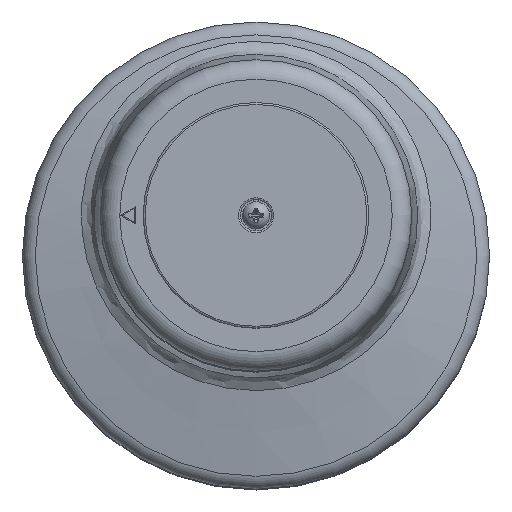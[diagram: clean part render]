
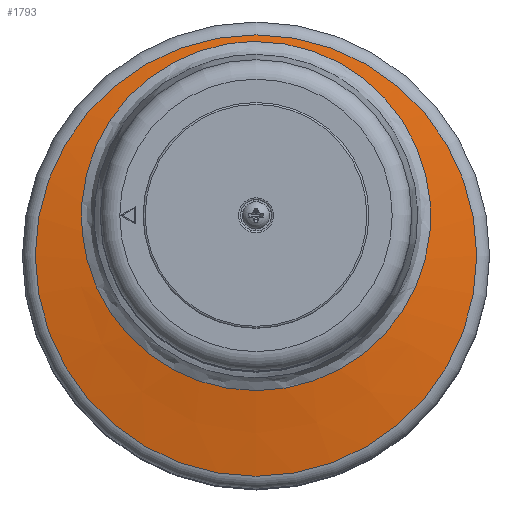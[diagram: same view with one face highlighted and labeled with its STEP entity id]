
A CAD part, top view. The second image highlights one B-rep face of the part: STEP entity #1793.
In plain terms, the highlighted conical face has half-angle 80 degrees and reference radius 45.694 mm.
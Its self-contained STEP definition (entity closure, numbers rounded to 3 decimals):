
#1793=ADVANCED_FACE('',(#5061,#5063),#5065,.T.);
#5061=FACE_OUTER_BOUND('',#5062,.T.);
#5062=EDGE_LOOP('',(#11467));
#5063=FACE_OUTER_BOUND('',#5064,.T.);
#5064=EDGE_LOOP('',(#11468));
#5065=CONICAL_SURFACE('',#5066,45.694,1.396);
#5066=AXIS2_PLACEMENT_3D('',#5067,#5068,#5069);
#5067=CARTESIAN_POINT('',(0.,17.522,0.));
#5068=DIRECTION('',(0.,-1.,0.));
#5069=DIRECTION('',(-1.,0.,0.));
#11467=ORIENTED_EDGE('',*,*,#13402,.T.);
#11468=ORIENTED_EDGE('',*,*,#13403,.F.);
#13402=EDGE_CURVE('',#14207,#14207,#14208,.T.);
#13403=EDGE_CURVE('',#14209,#14209,#14210,.T.);
#14207=VERTEX_POINT('',#17070);
#14208=B_SPLINE_CURVE_WITH_KNOTS('',3,
(#17071,#17072,#17073,#17074,#17075,#17076,#17077,#17078,#17079,#17080,#17081,#17082,
#17083,#17084,#17085,#17086,#17087,#17088,#17089,#17090,#17091,#17092,#17093,#17094,
#17095,#17096,#17097,#17098,#17099,#17100,#17101,#17102,#17103,#17104,#17105,#17106,
#17107,#17108,#17109,#17110,#17111,#17112,#17113,#17114,#17115,#17116,#17117,#17118,
#17119,#17120,#17121),
.UNSPECIFIED.,.T.,.F.,
(4,1,1,1,1,1,1,1,1,1,1,1,1,1,1,1,1,1,1,1,1,1,1,1,1,1,1,1,1,1,1,1,1,1,1,1,1,1,1,1,
1,1,1,1,1,1,1,1,4),
(0.,0.02,0.041,0.062,0.083,
0.105,0.126,0.147,0.168,0.189,
0.21,0.231,0.252,0.273,0.295,
0.316,0.337,0.358,0.379,0.401,
0.422,0.443,0.464,0.485,0.507,
0.528,0.549,0.57,0.591,0.613,
0.634,0.655,0.676,0.697,0.718,
0.74,0.761,0.782,0.803,0.824,
0.846,0.867,0.888,0.909,0.93,
0.951,0.972,0.988,1.),
.UNSPECIFIED.);
#14209=VERTEX_POINT('',#17122);
#14210=CIRCLE('',#17123,56.695);
#17070=CARTESIAN_POINT('',(-54.959,15.889,0.));
#17071=CARTESIAN_POINT('',(-54.959,15.889,0.));
#17072=CARTESIAN_POINT('',(-54.959,15.889,-1.922));
#17073=CARTESIAN_POINT('',(-54.709,15.897,-5.796));
#17074=CARTESIAN_POINT('',(-53.581,15.934,-11.546));
#17075=CARTESIAN_POINT('',(-51.687,15.995,-17.169));
#17076=CARTESIAN_POINT('',(-49.049,16.082,-22.525));
#17077=CARTESIAN_POINT('',(-45.716,16.193,-27.493));
#17078=CARTESIAN_POINT('',(-41.759,16.326,-31.971));
#17079=CARTESIAN_POINT('',(-37.247,16.48,-35.883));
#17080=CARTESIAN_POINT('',(-32.252,16.654,-39.165));
#17081=CARTESIAN_POINT('',(-26.876,16.845,-41.75));
#17082=CARTESIAN_POINT('',(-21.228,17.05,-43.594));
#17083=CARTESIAN_POINT('',(-15.385,17.268,-44.68));
#17084=CARTESIAN_POINT('',(-9.46,17.496,-44.984));
#17085=CARTESIAN_POINT('',(-3.482,17.732,-44.499));
#17086=CARTESIAN_POINT('',(2.356,17.97,-43.224));
#17087=CARTESIAN_POINT('',(8.023,18.209,-41.164));
#17088=CARTESIAN_POINT('',(13.318,18.439,-38.393));
#17089=CARTESIAN_POINT('',(18.21,18.659,-34.93));
#17090=CARTESIAN_POINT('',(22.577,18.862,-30.873));
#17091=CARTESIAN_POINT('',(26.379,19.044,-26.259));
#17092=CARTESIAN_POINT('',(29.535,19.199,-21.183));
#17093=CARTESIAN_POINT('',(31.992,19.323,-15.728));
#17094=CARTESIAN_POINT('',(33.702,19.411,-10.001));
#17095=CARTESIAN_POINT('',(34.638,19.459,-4.105));
#17096=CARTESIAN_POINT('',(34.787,19.467,1.86));
#17097=CARTESIAN_POINT('',(34.147,19.434,7.793));
#17098=CARTESIAN_POINT('',(32.724,19.36,13.604));
#17099=CARTESIAN_POINT('',(30.542,19.25,19.176));
#17100=CARTESIAN_POINT('',(27.636,19.105,24.413));
#17101=CARTESIAN_POINT('',(24.069,18.933,29.21));
#17102=CARTESIAN_POINT('',(19.895,18.737,33.491));
#17103=CARTESIAN_POINT('',(15.201,18.523,37.173));
#17104=CARTESIAN_POINT('',(10.046,18.296,40.21));
#17105=CARTESIAN_POINT('',(4.552,18.062,42.526));
#17106=CARTESIAN_POINT('',(-1.229,17.823,44.102));
#17107=CARTESIAN_POINT('',(-7.143,17.586,44.892));
#17108=CARTESIAN_POINT('',(-13.154,17.353,44.888));
#17109=CARTESIAN_POINT('',(-19.076,17.13,44.09));
#17110=CARTESIAN_POINT('',(-24.852,16.918,42.507));
#17111=CARTESIAN_POINT('',(-30.344,16.721,40.184));
#17112=CARTESIAN_POINT('',(-35.49,16.541,37.147));
#17113=CARTESIAN_POINT('',(-40.187,16.379,33.456));
#17114=CARTESIAN_POINT('',(-44.354,16.238,29.174));
#17115=CARTESIAN_POINT('',(-47.917,16.119,24.377));
#17116=CARTESIAN_POINT('',(-50.811,16.024,19.154));
#17117=CARTESIAN_POINT('',(-52.979,15.953,13.617));
#17118=CARTESIAN_POINT('',(-54.29,15.911,8.291));
#17119=CARTESIAN_POINT('',(-54.862,15.892,3.729));
#17120=CARTESIAN_POINT('',(-54.959,15.889,1.101));
#17121=CARTESIAN_POINT('',(-54.959,15.889,0.));
#17122=CARTESIAN_POINT('',(-56.695,15.583,0.));
#17123=AXIS2_PLACEMENT_3D('',#17124,#17125,#17126);
#17124=CARTESIAN_POINT('',(0.,15.583,0.));
#17125=DIRECTION('',(0.,-1.,0.));
#17126=DIRECTION('',(-1.,0.,0.));
